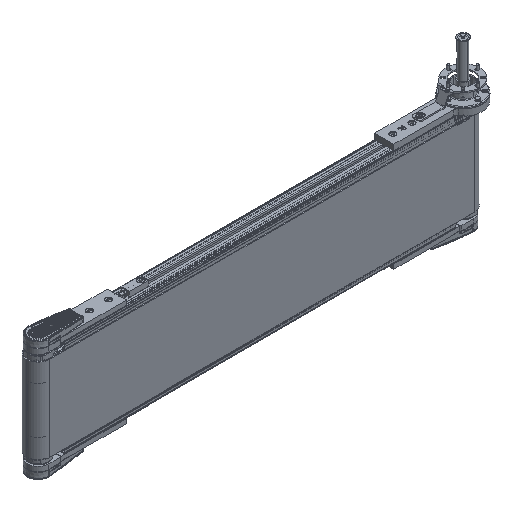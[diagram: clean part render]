
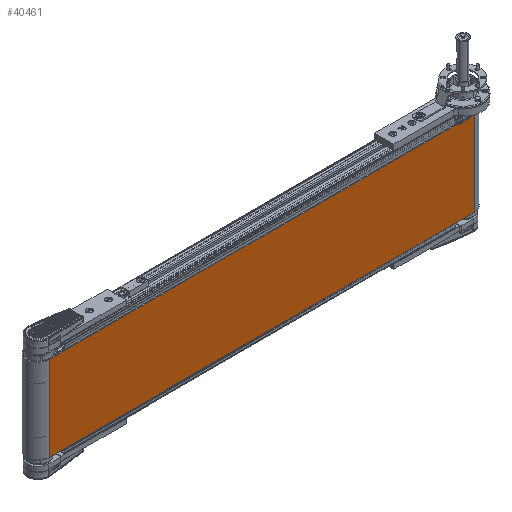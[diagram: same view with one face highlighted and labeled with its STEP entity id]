
A CAD part, isometric view. The second image highlights one B-rep face of the part: STEP entity #40461.
In plain terms, the highlighted planar face has unit normal (0, -1, 0).
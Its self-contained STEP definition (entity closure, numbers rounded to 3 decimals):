
#657 = DIRECTION ( 'NONE',  ( 0., 0., -1. ) ) ;
#3546 = LINE ( 'NONE', #85673, #25856 ) ;
#8391 = PLANE ( 'NONE',  #83887 ) ;
#11317 = EDGE_CURVE ( 'NONE', #24630, #92999, #40718, .T. ) ;
#13405 = EDGE_CURVE ( 'NONE', #104160, #24630, #3546, .T. ) ;
#16686 = ORIENTED_EDGE ( 'NONE', *, *, #11317, .F. ) ;
#19274 = EDGE_LOOP ( 'NONE', ( #27434, #16686, #100216, #23851 ) ) ;
#23352 = CARTESIAN_POINT ( 'NONE',  ( 500., -27., 100. ) ) ;
#23851 = ORIENTED_EDGE ( 'NONE', *, *, #47312, .T. ) ;
#24193 = DIRECTION ( 'NONE',  ( 0., 0., -1. ) ) ;
#24630 = VERTEX_POINT ( 'NONE', #61132 ) ;
#24705 = DIRECTION ( 'NONE',  ( 0., 0., 1. ) ) ;
#24738 = VERTEX_POINT ( 'NONE', #31049 ) ;
#25733 = CARTESIAN_POINT ( 'NONE',  ( -500., -27., 100. ) ) ;
#25856 = VECTOR ( 'NONE', #51508, 1000. ) ;
#27434 = ORIENTED_EDGE ( 'NONE', *, *, #62141, .T. ) ;
#27720 = CARTESIAN_POINT ( 'NONE',  ( -500., -27., -100. ) ) ;
#31049 = CARTESIAN_POINT ( 'NONE',  ( -500., -27., -100. ) ) ;
#35017 = CARTESIAN_POINT ( 'NONE',  ( -500., -27., 100. ) ) ;
#40461 = ADVANCED_FACE ( 'NONE', ( #70723 ), #8391, .F. ) ;
#40718 = LINE ( 'NONE', #23352, #59745 ) ;
#47312 = EDGE_CURVE ( 'NONE', #104160, #24738, #56333, .T. ) ;
#51508 = DIRECTION ( 'NONE',  ( 1., 0., 0. ) ) ;
#56333 = LINE ( 'NONE', #25733, #99933 ) ;
#59745 = VECTOR ( 'NONE', #657, 1000. ) ;
#61132 = CARTESIAN_POINT ( 'NONE',  ( 500., -27., 100. ) ) ;
#62141 = EDGE_CURVE ( 'NONE', #24738, #92999, #92463, .T. ) ;
#62821 = DIRECTION ( 'NONE',  ( 0., 1., 0. ) ) ;
#67257 = DIRECTION ( 'NONE',  ( 1., 0., 0. ) ) ;
#70723 = FACE_OUTER_BOUND ( 'NONE', #19274, .T. ) ;
#82065 = CARTESIAN_POINT ( 'NONE',  ( -500., -27., 100. ) ) ;
#83887 = AXIS2_PLACEMENT_3D ( 'NONE', #82065, #62821, #24705 ) ;
#85432 = CARTESIAN_POINT ( 'NONE',  ( 500., -27., -100. ) ) ;
#85673 = CARTESIAN_POINT ( 'NONE',  ( -500., -27., 100. ) ) ;
#90023 = VECTOR ( 'NONE', #67257, 1000. ) ;
#92463 = LINE ( 'NONE', #27720, #90023 ) ;
#92999 = VERTEX_POINT ( 'NONE', #85432 ) ;
#99933 = VECTOR ( 'NONE', #24193, 1000. ) ;
#100216 = ORIENTED_EDGE ( 'NONE', *, *, #13405, .F. ) ;
#104160 = VERTEX_POINT ( 'NONE', #35017 ) ;
